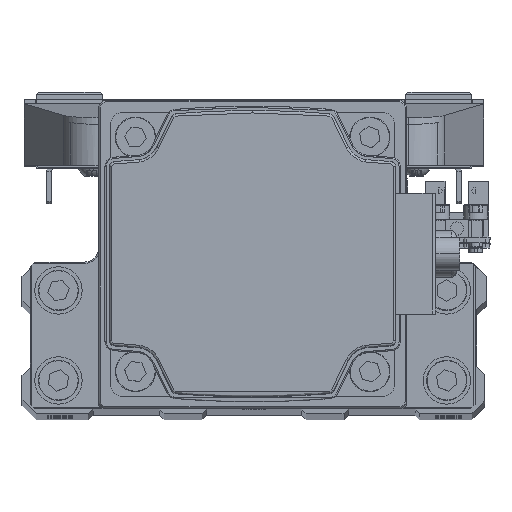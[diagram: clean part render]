
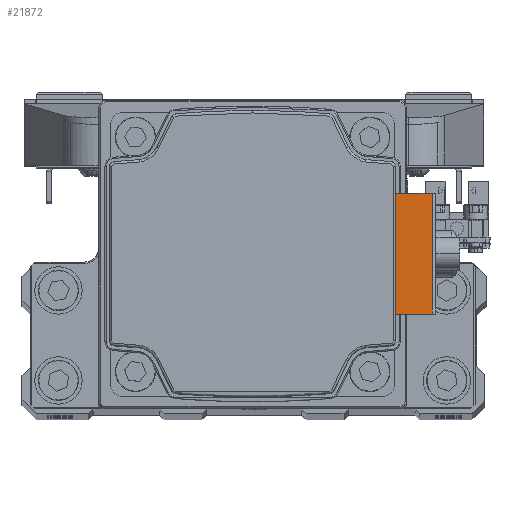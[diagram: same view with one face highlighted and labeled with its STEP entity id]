
A CAD part, top view. The second image highlights one B-rep face of the part: STEP entity #21872.
In plain terms, the highlighted planar face has unit normal (0, 0, 1) as drawn and (0, 0, -1) by its records, which use the part's own axes.
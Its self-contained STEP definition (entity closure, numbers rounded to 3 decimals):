
#205 = FACE_OUTER_BOUND ( 'NONE', #37996, .T. ) ;
#1278 = CARTESIAN_POINT ( 'NONE',  ( -12.75, 37.9, -88.696 ) ) ;
#2910 = DIRECTION ( 'NONE',  ( 0., 1., 0. ) ) ;
#3694 = VECTOR ( 'NONE', #25002, 1000. ) ;
#6075 = VECTOR ( 'NONE', #38504, 1000. ) ;
#10209 = LINE ( 'NONE', #24351, #6075 ) ;
#10847 = DIRECTION ( 'NONE',  ( -1., 0., 0. ) ) ;
#10857 = CARTESIAN_POINT ( 'NONE',  ( 12.75, 33.991, -88.696 ) ) ;
#13451 = VERTEX_POINT ( 'NONE', #33142 ) ;
#13499 = VECTOR ( 'NONE', #2910, 1000. ) ;
#14324 = PLANE ( 'NONE',  #32247 ) ;
#16343 = EDGE_CURVE ( 'NONE', #18763, #13451, #42643, .T. ) ;
#16647 = LINE ( 'NONE', #30803, #18320 ) ;
#17824 = CARTESIAN_POINT ( 'NONE',  ( 12.75, 30.2, -88.696 ) ) ;
#18320 = VECTOR ( 'NONE', #44955, 1000. ) ;
#18763 = VERTEX_POINT ( 'NONE', #17824 ) ;
#20004 = EDGE_CURVE ( 'NONE', #35447, #18763, #10209, .T. ) ;
#20529 = LINE ( 'NONE', #34682, #13499 ) ;
#21872 = ADVANCED_FACE ( 'NONE', ( #205 ), #14324, .T. ) ;
#22240 = CARTESIAN_POINT ( 'NONE',  ( -12.75, 30.2, -88.696 ) ) ;
#22505 = ORIENTED_EDGE ( 'NONE', *, *, #16343, .F. ) ;
#24101 = EDGE_CURVE ( 'NONE', #24868, #13451, #16647, .T. ) ;
#24351 = CARTESIAN_POINT ( 'NONE',  ( 18.438, 30.2, -88.696 ) ) ;
#24868 = VERTEX_POINT ( 'NONE', #1278 ) ;
#25002 = DIRECTION ( 'NONE',  ( 0., 1., 0. ) ) ;
#26788 = ORIENTED_EDGE ( 'NONE', *, *, #29771, .T. ) ;
#28476 = CARTESIAN_POINT ( 'NONE',  ( 0., 37.9, -88.696 ) ) ;
#29658 = ORIENTED_EDGE ( 'NONE', *, *, #24101, .T. ) ;
#29771 = EDGE_CURVE ( 'NONE', #35447, #24868, #20529, .T. ) ;
#30803 = CARTESIAN_POINT ( 'NONE',  ( 0., 37.9, -88.696 ) ) ;
#32247 = AXIS2_PLACEMENT_3D ( 'NONE', #28476, #42631, #10847 ) ;
#33142 = CARTESIAN_POINT ( 'NONE',  ( 12.75, 37.9, -88.696 ) ) ;
#34682 = CARTESIAN_POINT ( 'NONE',  ( -12.75, 37.9, -88.696 ) ) ;
#35447 = VERTEX_POINT ( 'NONE', #22240 ) ;
#37964 = ORIENTED_EDGE ( 'NONE', *, *, #20004, .F. ) ;
#37996 = EDGE_LOOP ( 'NONE', ( #26788, #29658, #22505, #37964 ) ) ;
#38504 = DIRECTION ( 'NONE',  ( 1., 0., 0. ) ) ;
#42631 = DIRECTION ( 'NONE',  ( 0., 0., -1. ) ) ;
#42643 = LINE ( 'NONE', #10857, #3694 ) ;
#44955 = DIRECTION ( 'NONE',  ( 1., 0., 0. ) ) ;
